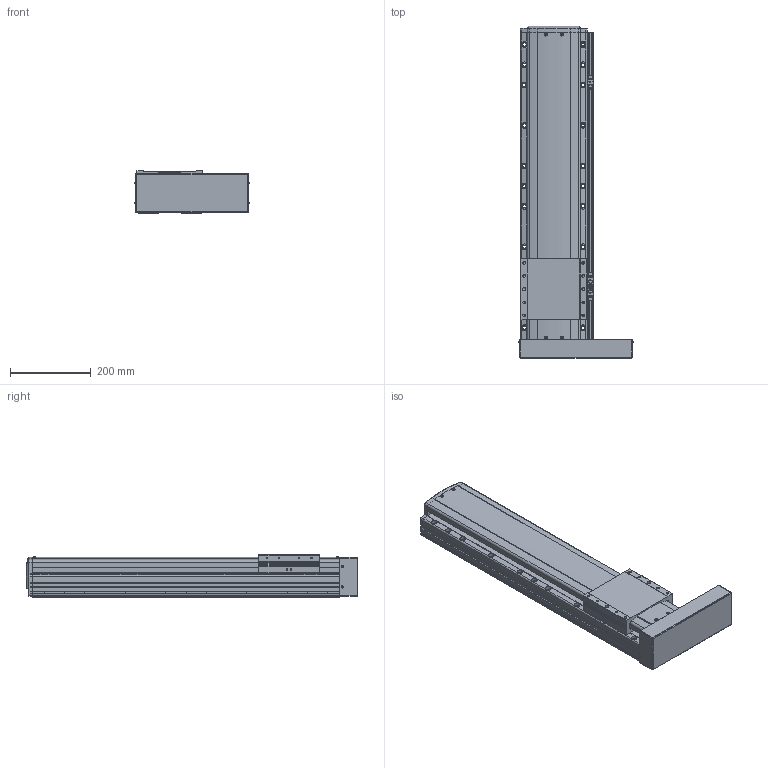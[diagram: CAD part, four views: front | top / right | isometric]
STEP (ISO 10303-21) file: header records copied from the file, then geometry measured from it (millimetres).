
FILE_DESCRIPTION(('STEP AP214'),'1');
FILE_NAME('Z:/Web/3D/PSA165/STP/PSA165-500 (3D)/PSA165ㅁㅁ-500PR+3SR.stp','2014-06-23T11:24:45',(' '),(' '),'Spatial InterOp 3D',' ',' ');
FILE_SCHEMA(('automotive_design'));
Length unit declared in the file: millimetre
Products named in the file (41): 스크루 : Round - M4.0 x 12.0; RRCV-PA160; BASE; 스크루 : Round - M4.0 x 10.0; RN15; Screw 20; SLIDE; FRCV; MTPL; 스크루 : Round - M3.0 x 6.0; M3.0 x 6.0; SRL-16x17-360L; SGD-SAN150; EE-SX674; SBK-SX674-352; BHCS M4.0 x 10.0
Bounding box: 281.93 x 820.8 x 104 mm (x, y, z)
Volume: 12058014.9 mm3; surface area: 905165.2 mm2
Topology: 41 solids, 41 shells, 2492 faces, 6669 edges, 4285 vertices
Faces by surface type: plane 1443, cylinder 735, cone 209, sphere 64, bspline 25, torus 16
Entity records: 100993 total; most frequent: CARTESIAN_POINT 17393, DIRECTION 13287, ORIENTED_EDGE 13062, EDGE_CURVE 6531, AXIS2_PLACEMENT_3D 4433, LINE 4421, VECTOR 4421, VERTEX_POINT 4285
